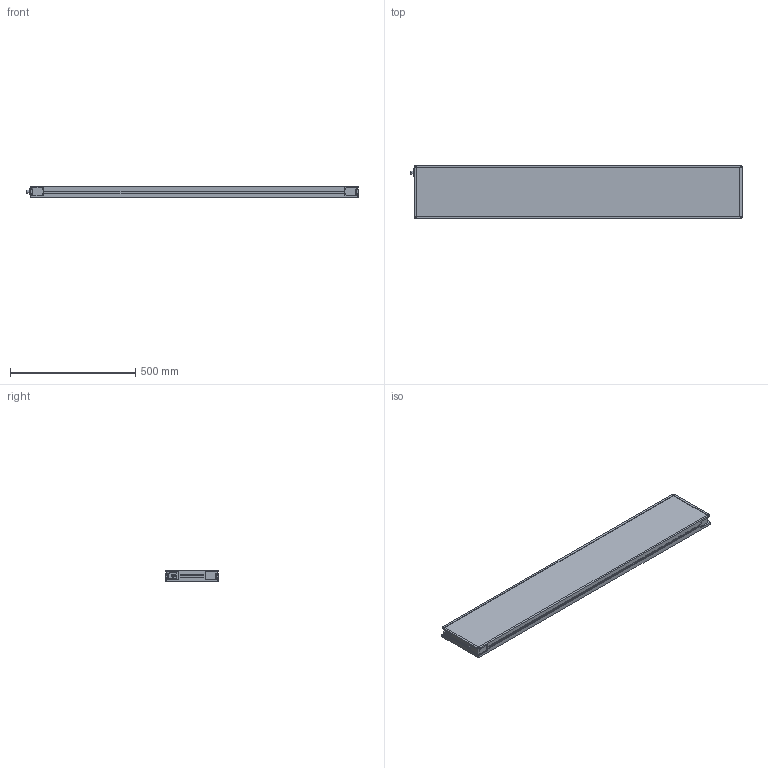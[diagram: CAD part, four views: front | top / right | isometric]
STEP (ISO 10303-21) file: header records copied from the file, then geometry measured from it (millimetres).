
FILE_DESCRIPTION (( 'STEP AP214' ), '1' );
FILE_NAME ('MBACK-xxxx-xxx-M1_CLIENT200x1300.STEP', '2022-03-31T15:57:38', ( '' ), ( '' ), 'SwSTEP 2.0', 'SolidWorks 2020', '' );
FILE_SCHEMA (( 'AUTOMOTIVE_DESIGN' ));
Length unit declared in the file: millimetre
Products named in the file (1): MBACK-xxxx-xxx-M1_CLIENT200x1300
Bounding box: 1325.9 x 208 x 45.5 mm (x, y, z)
Volume: 11254031.9 mm3; surface area: 745405.7 mm2
Topology: 1 solids, 1 shells, 442 faces, 1144 edges, 760 vertices
Faces by surface type: plane 249, cylinder 105, bspline 80, cone 8
Entity records: 17236 total; most frequent: CARTESIAN_POINT 6699, ORIENTED_EDGE 2288, DIRECTION 1936, EDGE_CURVE 1144, VERTEX_POINT 760, LINE 758, VECTOR 758, AXIS2_PLACEMENT_3D 589
